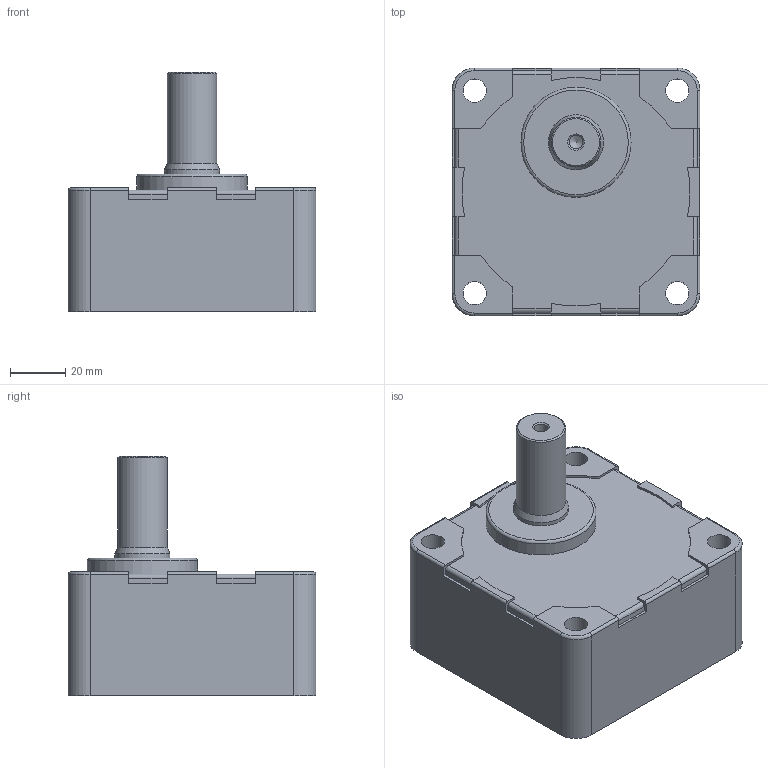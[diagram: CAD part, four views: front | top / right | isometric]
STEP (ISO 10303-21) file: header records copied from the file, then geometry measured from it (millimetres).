
FILE_DESCRIPTION(/* description */ (''),/* implementation_level */ '2;1');
FILE_NAME(/* name */ 'E:\도면작업\2016\0704) 미주향 SG 도면\3D GEAR HEAD\SG9SC5~15.stp',/* time_stamp */ '2016-07-22T14:05:45+09:00',/* author */ ('jy-jung'),/* organization */ (''),/* preprocessor_version */ 'ST-DEVELOPER v15.6',/* originating_system */ 'Autodesk Inventor 2015',/* authorisation */ '');
FILE_SCHEMA (('AUTOMOTIVE_DESIGN { 1 0 10303 214 3 1 1 }'));
Length unit declared in the file: millimetre
Products named in the file (1): SG9SC5~15
Bounding box: 90 x 90 x 87 mm (x, y, z)
Volume: 347453.8 mm3; surface area: 40178.2 mm2
Topology: 1 solids, 1 shells, 102 faces, 273 edges, 177 vertices
Faces by surface type: plane 50, cylinder 41, cone 6, torus 5
Full cylindrical faces by diameter (mm): 4.917 x1, 8.5 x4, 10.5 x1, 18 x1, 20 x1, 40 x1, 83 x1
Entity records: 3125 total; most frequent: DIRECTION 551, CARTESIAN_POINT 532, ORIENTED_EDGE 508, EDGE_CURVE 254, AXIS2_PLACEMENT_3D 194, VERTEX_POINT 175, LINE 163, VECTOR 163
